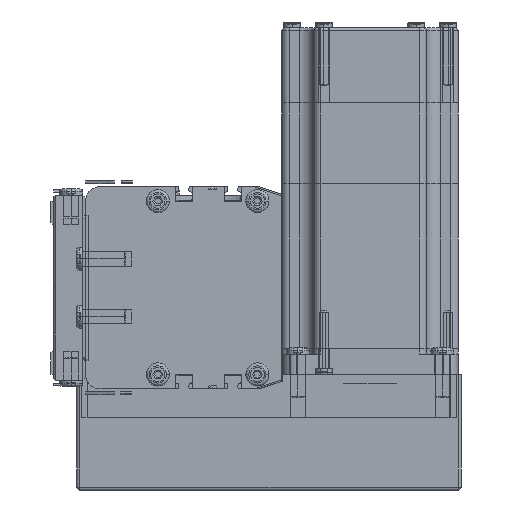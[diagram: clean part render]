
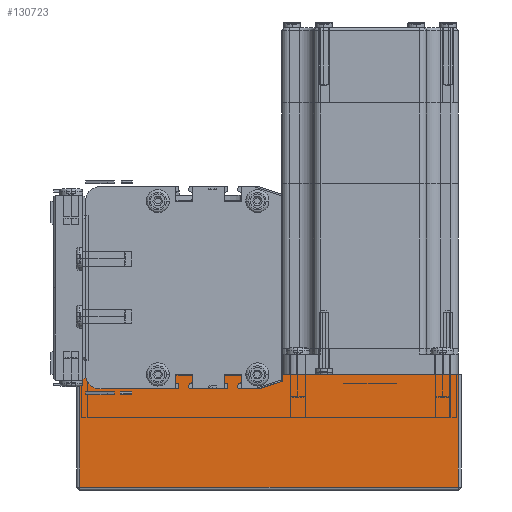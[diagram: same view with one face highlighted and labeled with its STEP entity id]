
A CAD part, left-side view. The second image highlights one B-rep face of the part: STEP entity #130723.
In plain terms, the highlighted planar face has unit normal (-1, 0, 0) as drawn and (0, 1, 0) by its records, which use the part's own axes.
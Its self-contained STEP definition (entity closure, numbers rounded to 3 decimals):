
#40726 = VERTEX_POINT ( 'NONE', #68999 ) ;
#58572 = DIRECTION ( 'NONE',  ( 1., 0., 0. ) ) ;
#58574 = VECTOR ( 'NONE', #58572, 1000. ) ;
#58576 = CARTESIAN_POINT ( 'NONE',  ( 0., 62., 39. ) ) ;
#58577 = LINE ( 'NONE', #58576, #58574 ) ;
#58740 = CARTESIAN_POINT ( 'NONE',  ( 1., 62., 39. ) ) ;
#59042 = CARTESIAN_POINT ( 'NONE',  ( 132., 62., 39. ) ) ;
#60155 = DIRECTION ( 'NONE',  ( 0., 0., -1. ) ) ;
#60157 = VECTOR ( 'NONE', #60155, 1000. ) ;
#60166 = CARTESIAN_POINT ( 'NONE',  ( 132., 62., 40. ) ) ;
#60168 = LINE ( 'NONE', #60166, #60157 ) ;
#60980 = PLANE ( 'NONE',  #61108 ) ;
#60996 = DIRECTION ( 'NONE',  ( 0., 0., 1. ) ) ;
#60998 = VECTOR ( 'NONE', #60996, 1000. ) ;
#61000 = CARTESIAN_POINT ( 'NONE',  ( 1., 62., 40. ) ) ;
#61004 = FACE_OUTER_BOUND ( 'NONE', #130706, .T. ) ;
#61011 = LINE ( 'NONE', #61000, #60998 ) ;
#61095 = DIRECTION ( 'NONE',  ( 0., 0., -1. ) ) ;
#61097 = DIRECTION ( 'NONE',  ( 0., -1., 0. ) ) ;
#61098 = CARTESIAN_POINT ( 'NONE',  ( 0., 62., 40. ) ) ;
#61108 = AXIS2_PLACEMENT_3D ( 'NONE', #61098, #61097, #61095 ) ;
#61726 = CARTESIAN_POINT ( 'NONE',  ( 1., 62., 0. ) ) ;
#68999 = CARTESIAN_POINT ( 'NONE',  ( 132., 62., 0. ) ) ;
#81980 = EDGE_CURVE ( 'NONE', #40726, #130964, #109521, .T. ) ;
#109517 = DIRECTION ( 'NONE',  ( -1., 0., 0. ) ) ;
#109518 = VECTOR ( 'NONE', #109517, 1000. ) ;
#109519 = CARTESIAN_POINT ( 'NONE',  ( 0., 62., 0. ) ) ;
#109521 = LINE ( 'NONE', #109519, #109518 ) ;
#127759 = EDGE_CURVE ( 'NONE', #128014, #128393, #58577, .T. ) ;
#127769 = ORIENTED_EDGE ( 'NONE', *, *, #127759, .T. ) ;
#128014 = VERTEX_POINT ( 'NONE', #58740 ) ;
#128393 = VERTEX_POINT ( 'NONE', #59042 ) ;
#129341 = ORIENTED_EDGE ( 'NONE', *, *, #81980, .T. ) ;
#129394 = ORIENTED_EDGE ( 'NONE', *, *, #129801, .T. ) ;
#129801 = EDGE_CURVE ( 'NONE', #128393, #40726, #60168, .T. ) ;
#130597 = ORIENTED_EDGE ( 'NONE', *, *, #130643, .T. ) ;
#130643 = EDGE_CURVE ( 'NONE', #130964, #128014, #61011, .T. ) ;
#130706 = EDGE_LOOP ( 'NONE', ( #127769, #129394, #129341, #130597 ) ) ;
#130723 = ADVANCED_FACE ( 'NONE', ( #61004 ), #60980, .F. ) ;
#130964 = VERTEX_POINT ( 'NONE', #61726 ) ;
